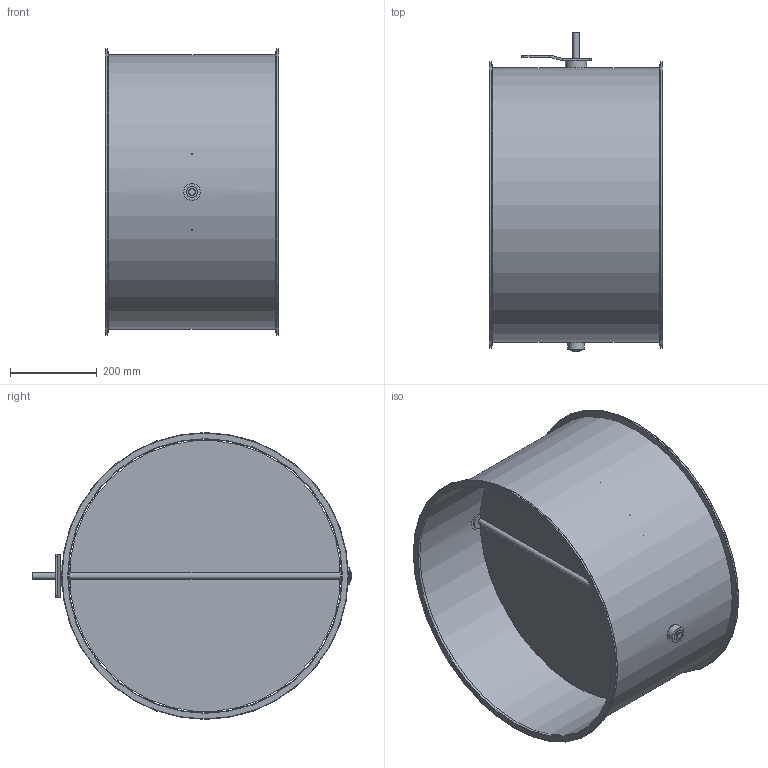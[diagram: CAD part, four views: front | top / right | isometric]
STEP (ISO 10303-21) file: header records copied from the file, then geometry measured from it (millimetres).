
FILE_DESCRIPTION(/* description */ (''),/* implementation_level */ '2;1');
FILE_NAME(/* name */ 'EA113-80B__630_L400_Belimo_Typ_SM.stp',/* time_stamp */ '2017-12-07T11:02:09+01:00',/* author */ (''),/* organization */ (''),/* preprocessor_version */ 'ST-DEVELOPER v11',/* originating_system */ 'SIEMENS UGS NX 6.0',/* authorisation */ '');
FILE_SCHEMA (('CONFIG_CONTROL_DESIGN'));
Length unit declared in the file: millimetre
Products named in the file (1): gars5544kxb0
Bounding box: 400 x 734 x 660 mm (x, y, z)
Volume: 1811524.4 mm3; surface area: 2394668 mm2
Topology: 8 solids, 8 shells, 79 faces, 167 edges, 106 vertices
Faces by surface type: plane 36, cylinder 35, torus 6, cone 2
Full cylindrical faces by diameter (mm): 6.1 x7, 15 x3, 25 x3, 25.85 x2, 26 x2, 38 x3, 49 x1, 630 x1, 632 x1, 660 x2
Entity records: 2062 total; most frequent: CARTESIAN_POINT 368, DIRECTION 352, ORIENTED_EDGE 248, AXIS2_PLACEMENT_3D 152, EDGE_LOOP 144, EDGE_CURVE 124, FACE_BOUND 114, VERTEX_POINT 96
